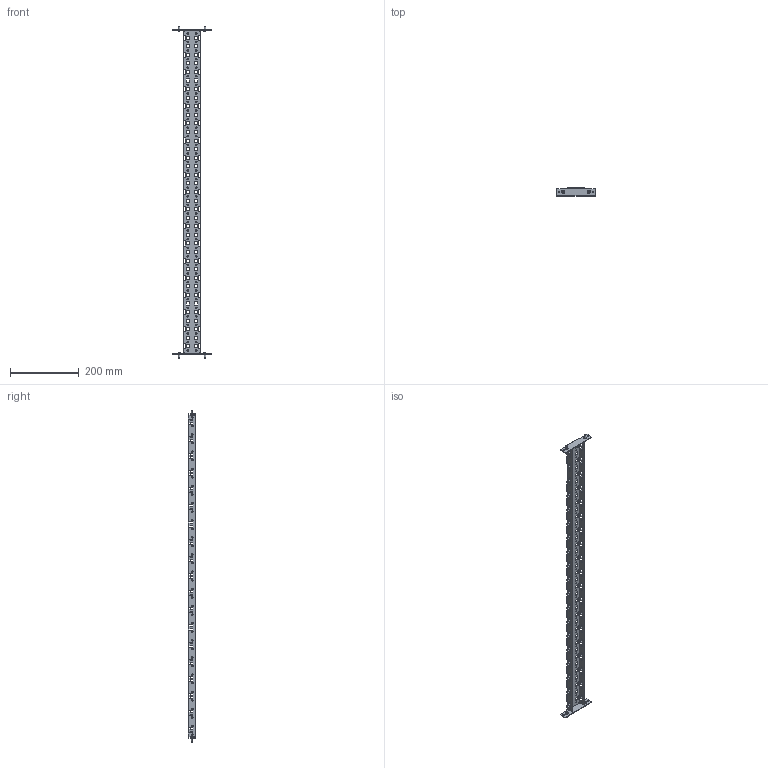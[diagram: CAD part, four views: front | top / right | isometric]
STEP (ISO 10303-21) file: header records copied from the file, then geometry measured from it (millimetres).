
FILE_DESCRIPTION(('Open CASCADE Model'),'2;1');
FILE_NAME('Open CASCADE Shape Model','2025-02-27T11:21:11',('Author'),( 'Open CASCADE'),'Open CASCADE STEP processor 7.8','Open CASCADE 7.8' ,'Unknown');
FILE_SCHEMA(('AUTOMOTIVE_DESIGN { 1 0 10303 214 1 1 1 1 }'));
Length unit declared in the file: millimetre
Products named in the file (3): Compound1; Solid1; Solid2
Assembly tree (5 placements, depth 2):
  Compound1
    Solid1
    Solid2  x4
Bounding box: 111 x 22.5 x 968 mm (x, y, z)
Volume: 114860.7 mm3; surface area: 168901.6 mm2
Topology: 5 solids, 5 shells, 1359 faces, 4207 edges, 2778 vertices
Faces by surface type: plane 974, cylinder 337, cone 16, torus 16, bspline 8, sphere 8
Entity records: 45949 total; most frequent: CARTESIAN_POINT 8257, ORIENTED_EDGE 8110, DIRECTION 7297, EDGE_CURVE 4055, LINE 3375, VECTOR 3375, VERTEX_POINT 2697, AXIS2_PLACEMENT_3D 1961
